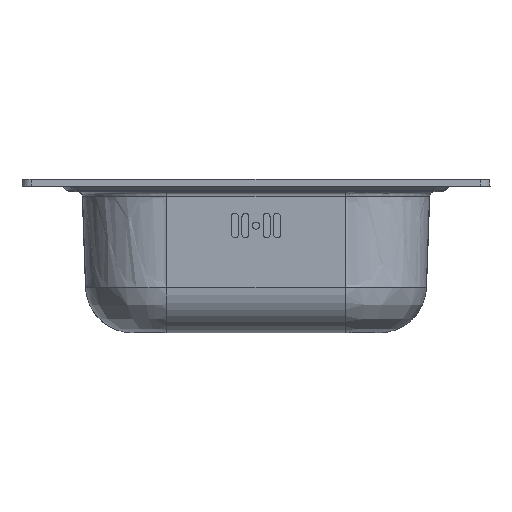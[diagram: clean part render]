
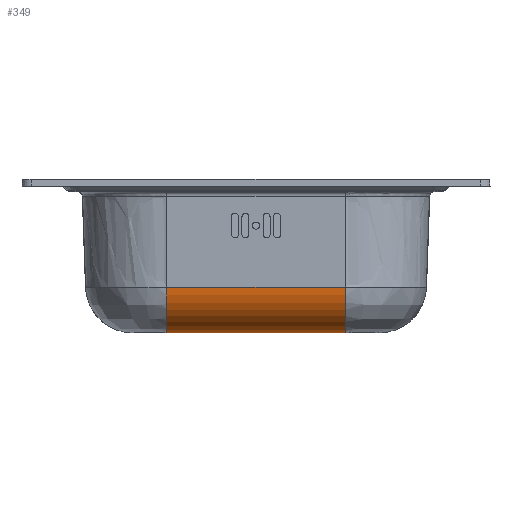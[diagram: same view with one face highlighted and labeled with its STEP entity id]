
A CAD part, left-side view. The second image highlights one B-rep face of the part: STEP entity #349.
In plain terms, the highlighted cylindrical face has radius 50.6 mm (diameter 101.2 mm), a partial arc.
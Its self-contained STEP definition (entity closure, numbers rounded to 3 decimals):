
#349=ADVANCED_FACE('',(#1300),#1301,.T.);
#1300=FACE_OUTER_BOUND('',#25053,.T.);
#1301=CYLINDRICAL_SURFACE('',#25054,50.6);
#25053=EDGE_LOOP('',(#44923,#44924,#44925,#44926));
#25054=AXIS2_PLACEMENT_3D('',#44927,#44928,#44929);
#44923=ORIENTED_EDGE('',*,*,#47494,.T.);
#44924=ORIENTED_EDGE('',*,*,#47859,.F.);
#44925=ORIENTED_EDGE('',*,*,#47862,.F.);
#44926=ORIENTED_EDGE('',*,*,#47860,.T.);
#44927=CARTESIAN_POINT('',(33.049,0.,-106.0));
#44928=DIRECTION('',(-0.0,-1.0,-0.0));
#44929=DIRECTION('',(0.695,-0.0,0.719));
#47494=EDGE_CURVE('',#49309,#49307,#49310,.T.);
#47859=EDGE_CURVE('',#49877,#49307,#49879,.T.);
#47860=EDGE_CURVE('',#49880,#49309,#49881,.T.);
#47862=EDGE_CURVE('',#49880,#49877,#49883,.T.);
#49307=VERTEX_POINT('',#57901);
#49309=VERTEX_POINT('',#57941);
#49310=LINE('',#57942,#57943);
#49877=VERTEX_POINT('',#62845);
#49879=B_SPLINE_CURVE_WITH_KNOTS('',5,(#62873,#62874,#62875,#62876,#62877,#62878,#62879,#62880,#62881),.UNSPECIFIED.,.F.,.F.,(6,3,6),(0.0,25.0,50.0),.UNSPECIFIED.);
#49880=VERTEX_POINT('',#62882);
#49881=B_SPLINE_CURVE_WITH_KNOTS('',5,(#62883,#62884,#62885,#62886,#62887,#62888,#62889,#62890,#62891),.UNSPECIFIED.,.F.,.F.,(6,3,6),(0.0,25.0,50.0),.UNSPECIFIED.);
#49883=LINE('',#62919,#62920);
#57901=CARTESIAN_POINT('',(33.049,-95.19,-156.6));
#57941=CARTESIAN_POINT('',(33.049,95.19,-156.6));
#57942=CARTESIAN_POINT('',(33.049,0.,-156.6));
#57943=VECTOR('',#68597,1.0);
#62845=CARTESIAN_POINT('',(-17.52,-95.19,-107.766));
#62873=CARTESIAN_POINT('',(-17.52,-95.19,-107.766));
#62874=CARTESIAN_POINT('',(-17.249,-95.19,-115.533));
#62875=CARTESIAN_POINT('',(-15.486,-95.19,-123.248));
#62876=CARTESIAN_POINT('',(-12.245,-95.19,-130.528));
#62877=CARTESIAN_POINT('',(-3.137,-95.19,-143.472));
#62878=CARTESIAN_POINT('',(10.117,-95.19,-152.123));
#62879=CARTESIAN_POINT('',(17.506,-95.19,-155.108));
#62880=CARTESIAN_POINT('',(25.278,-95.19,-156.6));
#62881=CARTESIAN_POINT('',(33.049,-95.19,-156.6));
#62882=CARTESIAN_POINT('',(-17.52,95.19,-107.766));
#62883=CARTESIAN_POINT('',(-17.52,95.19,-107.766));
#62884=CARTESIAN_POINT('',(-17.249,95.19,-115.533));
#62885=CARTESIAN_POINT('',(-15.486,95.19,-123.248));
#62886=CARTESIAN_POINT('',(-12.245,95.19,-130.528));
#62887=CARTESIAN_POINT('',(-3.137,95.19,-143.472));
#62888=CARTESIAN_POINT('',(10.117,95.19,-152.123));
#62889=CARTESIAN_POINT('',(17.506,95.19,-155.108));
#62890=CARTESIAN_POINT('',(25.278,95.19,-156.6));
#62891=CARTESIAN_POINT('',(33.049,95.19,-156.6));
#62919=CARTESIAN_POINT('',(-17.52,0.,-107.766));
#62920=VECTOR('',#68760,1.0);
#68597=DIRECTION('',(0.0,-1.0,0.0));
#68760=DIRECTION('',(0.0,-1.0,0.0));
